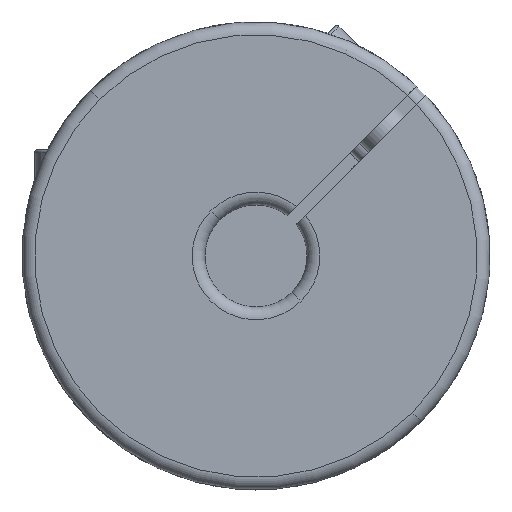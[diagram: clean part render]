
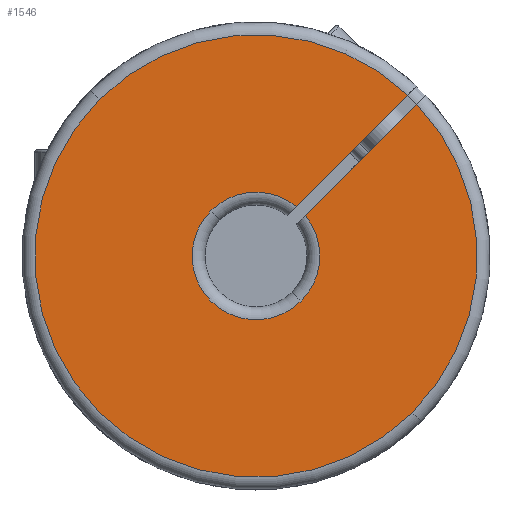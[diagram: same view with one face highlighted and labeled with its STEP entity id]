
A CAD part, front view. The second image highlights one B-rep face of the part: STEP entity #1546.
In plain terms, the highlighted planar face has unit normal (0, -1, 0) as drawn and (-1, 0, 0) by its records, which use the part's own axes.
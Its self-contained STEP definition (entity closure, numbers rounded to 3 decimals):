
#67 = EDGE_CURVE ( 'NONE', #7634, #4584, #4695, .T. ) ;
#151 = LINE ( 'NONE', #1948, #888 ) ;
#352 = ORIENTED_EDGE ( 'NONE', *, *, #1582, .F. ) ;
#385 = CARTESIAN_POINT ( 'NONE',  ( 0., -25.989, 0.75 ) ) ;
#462 = ORIENTED_EDGE ( 'NONE', *, *, #3610, .T. ) ;
#562 = CARTESIAN_POINT ( 'NONE',  ( 0., 0., -26. ) ) ;
#645 = DIRECTION ( 'NONE',  ( -1., 0., 0. ) ) ;
#685 = AXIS2_PLACEMENT_3D ( 'NONE', #3103, #1235, #4435 ) ;
#691 = AXIS2_PLACEMENT_3D ( 'NONE', #801, #2624, #3355 ) ;
#712 = DIRECTION ( 'NONE',  ( 0., 1., 0. ) ) ;
#766 = EDGE_CURVE ( 'NONE', #3313, #8049, #1112, .T. ) ;
#801 = CARTESIAN_POINT ( 'NONE',  ( 0., 0., 0. ) ) ;
#888 = VECTOR ( 'NONE', #712, 1000. ) ;
#1112 = CIRCLE ( 'NONE', #4523, 7.5 ) ;
#1235 = DIRECTION ( 'NONE',  ( -1., 0., 0. ) ) ;
#1243 = AXIS2_PLACEMENT_3D ( 'NONE', #4737, #2913, #2326 ) ;
#1319 = CIRCLE ( 'NONE', #6165, 26. ) ;
#1426 = EDGE_CURVE ( 'NONE', #2635, #8116, #3633, .T. ) ;
#1449 = CARTESIAN_POINT ( 'NONE',  ( 0., -7.462, 0.75 ) ) ;
#1546 = ADVANCED_FACE ( 'NONE', ( #6813 ), #3712, .T. ) ;
#1582 = EDGE_CURVE ( 'NONE', #6455, #2635, #7754, .T. ) ;
#1599 = VECTOR ( 'NONE', #6731, 1000. ) ;
#1869 = CARTESIAN_POINT ( 'NONE',  ( 0., 0., 0. ) ) ;
#1941 = CARTESIAN_POINT ( 'NONE',  ( 0., 0., 0. ) ) ;
#1948 = CARTESIAN_POINT ( 'NONE',  ( 0., -3.5, 0.75 ) ) ;
#2242 = CARTESIAN_POINT ( 'NONE',  ( 0., 0., 26. ) ) ;
#2326 = DIRECTION ( 'NONE',  ( 0., 0., 1. ) ) ;
#2441 = CARTESIAN_POINT ( 'NONE',  ( 0., -3.5, -0.75 ) ) ;
#2624 = DIRECTION ( 'NONE',  ( -1., 0., 0. ) ) ;
#2635 = VERTEX_POINT ( 'NONE', #4846 ) ;
#2809 = ORIENTED_EDGE ( 'NONE', *, *, #1426, .F. ) ;
#2913 = DIRECTION ( 'NONE',  ( -1., 0., 0. ) ) ;
#3103 = CARTESIAN_POINT ( 'NONE',  ( 0., 0., 7.5 ) ) ;
#3168 = DIRECTION ( 'NONE',  ( 0., 0., 1. ) ) ;
#3205 = CIRCLE ( 'NONE', #691, 26. ) ;
#3313 = VERTEX_POINT ( 'NONE', #1449 ) ;
#3337 = DIRECTION ( 'NONE',  ( 0., 0., 1. ) ) ;
#3352 = ORIENTED_EDGE ( 'NONE', *, *, #5236, .F. ) ;
#3355 = DIRECTION ( 'NONE',  ( 0., 0., 1. ) ) ;
#3504 = ORIENTED_EDGE ( 'NONE', *, *, #4816, .T. ) ;
#3610 = EDGE_CURVE ( 'NONE', #5911, #8116, #1319, .T. ) ;
#3633 = LINE ( 'NONE', #2441, #1599 ) ;
#3712 = PLANE ( 'NONE',  #685 ) ;
#3851 = AXIS2_PLACEMENT_3D ( 'NONE', #7695, #645, #7041 ) ;
#4008 = ORIENTED_EDGE ( 'NONE', *, *, #766, .F. ) ;
#4435 = DIRECTION ( 'NONE',  ( 0., 0., 1. ) ) ;
#4523 = AXIS2_PLACEMENT_3D ( 'NONE', #6886, #7616, #3168 ) ;
#4530 = DIRECTION ( 'NONE',  ( -1., 0., 0. ) ) ;
#4534 = EDGE_LOOP ( 'NONE', ( #2809, #352, #7520, #4008, #3352, #5465, #3504, #462 ) ) ;
#4584 = VERTEX_POINT ( 'NONE', #2242 ) ;
#4695 = CIRCLE ( 'NONE', #6930, 26. ) ;
#4737 = CARTESIAN_POINT ( 'NONE',  ( 0., 0., 0. ) ) ;
#4816 = EDGE_CURVE ( 'NONE', #4584, #5911, #3205, .T. ) ;
#4846 = CARTESIAN_POINT ( 'NONE',  ( 0., -7.462, -0.75 ) ) ;
#5236 = EDGE_CURVE ( 'NONE', #7634, #3313, #151, .T. ) ;
#5309 = CARTESIAN_POINT ( 'NONE',  ( 0., 0., 7.5 ) ) ;
#5465 = ORIENTED_EDGE ( 'NONE', *, *, #67, .T. ) ;
#5911 = VERTEX_POINT ( 'NONE', #562 ) ;
#5974 = CARTESIAN_POINT ( 'NONE',  ( 0., 0., -7.5 ) ) ;
#6165 = AXIS2_PLACEMENT_3D ( 'NONE', #1869, #4530, #7563 ) ;
#6455 = VERTEX_POINT ( 'NONE', #5974 ) ;
#6731 = DIRECTION ( 'NONE',  ( 0., -1., 0. ) ) ;
#6746 = CIRCLE ( 'NONE', #1243, 7.5 ) ;
#6813 = FACE_OUTER_BOUND ( 'NONE', #4534, .T. ) ;
#6886 = CARTESIAN_POINT ( 'NONE',  ( 0., 0., 0. ) ) ;
#6930 = AXIS2_PLACEMENT_3D ( 'NONE', #1941, #7592, #3337 ) ;
#7041 = DIRECTION ( 'NONE',  ( 0., 0., 1. ) ) ;
#7323 = CARTESIAN_POINT ( 'NONE',  ( 0., -25.989, -0.75 ) ) ;
#7520 = ORIENTED_EDGE ( 'NONE', *, *, #8068, .F. ) ;
#7563 = DIRECTION ( 'NONE',  ( 0., 0., 1. ) ) ;
#7592 = DIRECTION ( 'NONE',  ( -1., 0., 0. ) ) ;
#7616 = DIRECTION ( 'NONE',  ( -1., 0., 0. ) ) ;
#7634 = VERTEX_POINT ( 'NONE', #385 ) ;
#7695 = CARTESIAN_POINT ( 'NONE',  ( 0., 0., 0. ) ) ;
#7754 = CIRCLE ( 'NONE', #3851, 7.5 ) ;
#8049 = VERTEX_POINT ( 'NONE', #5309 ) ;
#8068 = EDGE_CURVE ( 'NONE', #8049, #6455, #6746, .T. ) ;
#8116 = VERTEX_POINT ( 'NONE', #7323 ) ;
